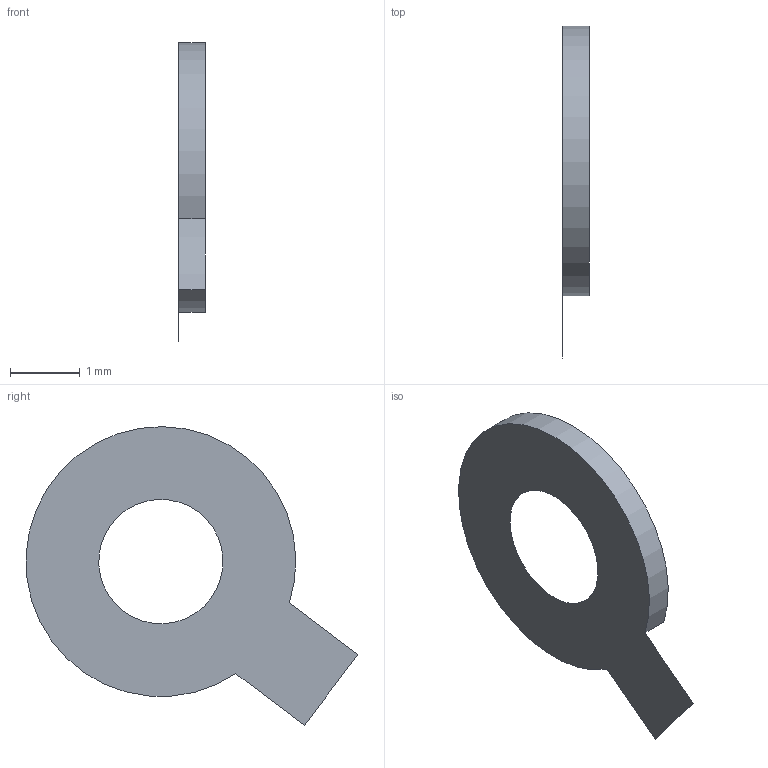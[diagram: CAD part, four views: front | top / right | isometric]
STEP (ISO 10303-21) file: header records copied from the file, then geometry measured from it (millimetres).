
FILE_DESCRIPTION(/* description */ ('STEP AP242 Edition 2','CAx-IF Rec.Pracs.---Representation and Presentation of Product Manufacturing Information (PMI)---4.0---2014-10-13','CAx-IF Rec.Pracs.---3D Tessellated Geometry---0.4---2014-09-14','2;1','CAx-IF Rec.Pracs.---User Defined Attributes---1.5---2016-08-15'),/* implementation_level */ '2;1');
FILE_NAME(/* name */ 'Part Studio 1 - Surface 40',/* time_stamp */ '2026-11-25T23:28:53Z',/* author */ (''),/* organization */ (''),/* preprocessor_version */ 'ST-DEVELOPER v20',/* originating_system */ 'ONSHAPE BY PTC INC, 1.224',/* authorisation */ ' ');
FILE_SCHEMA (('AP242_MANAGED_MODEL_BASED_3D_ENGINEERING_MIM_LF { 1 0 10303 442 3 1 4 }'));
Length unit declared in the file: metre
Products named in the file (1): NONE
Bounding box: 0.38 x 4.75 x 4.27 mm (x, y, z)
Surface area: 14.8 mm2 (no closed solid volume)
Topology: 0 solids, 1 shells, 2 faces, 9 edges, 8 vertices
Faces by surface type: cylinder 1, plane 1
Entity records: 114 total; most frequent: CARTESIAN_POINT 20, DIRECTION 19, ORIENTED_EDGE 10, EDGE_CURVE 9, VERTEX_POINT 8, AXIS2_PLACEMENT_3D 7, LINE 5, VECTOR 5
